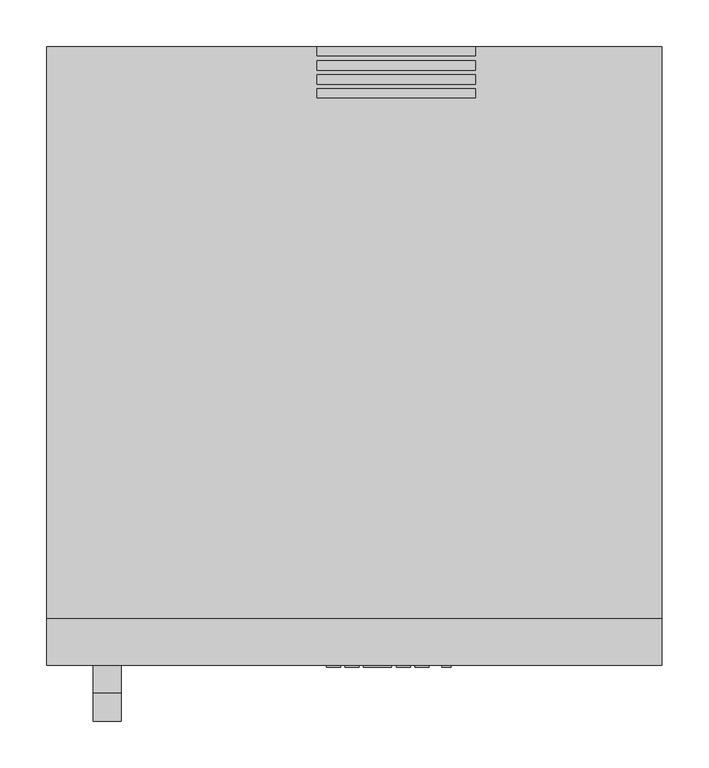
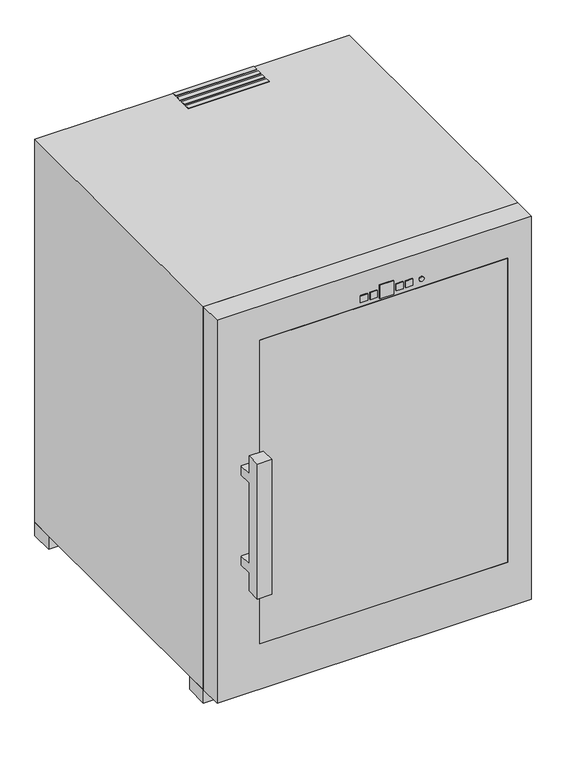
"""IFC4 building model written with IfcOpenShell, lengths in millimetres: proxy geometry, Wkb 1712_049 : WKb 1712."""

import ifcopenshell
import ifcopenshell.guid

model = None  # the IFC model being written
_history = None  # IfcOwnerHistory: only IFC2X3 demands one
_inside = {}  # id of a spatial element -> (the spatial element, [elements in it])
_under = {}  # id of a project, library or spatial element -> (it, [spatial elements below it])
_declared = {}  # id of a project -> (the project, [libraries it declares])
_typed = {}  # id of a type object -> (the type object, [elements of that type])
_made_of = {}  # id of a material, layer set ... -> (it, [elements and type objects made of it])


def new_model(schema):
    """Start an empty IFC model of exactly this schema.

    Asked for "IFC4X3", IfcOpenShell would pick the latest addendum, in which some entities
    have other attributes; the version numbers below select the first issue.
    IFC2X3 requires an IfcOwnerHistory on every rooted entity: one is made here for all.
    """
    global model, _history
    if schema == "IFC4X3":
        model = ifcopenshell.file(schema_version=(4, 3, 0, 0))
    else:
        model = ifcopenshell.file(schema=schema)
    _inside.clear()
    _under.clear()
    _declared.clear()
    _typed.clear()
    _made_of.clear()
    _history = None
    if model.schema == "IFC2X3":
        org = make("IfcOrganization", Name="unknown")
        user = make(
            "IfcPersonAndOrganization",
            ThePerson=make("IfcPerson", FamilyName="unknown"),
            TheOrganization=org,
        )
        app = make(
            "IfcApplication",
            ApplicationDeveloper=org,
            Version="unknown",
            ApplicationFullName="unknown",
            ApplicationIdentifier="unknown",
        )
        _history = make(
            "IfcOwnerHistory",
            OwningUser=user,
            OwningApplication=app,
            ChangeAction="ADDED",
            CreationDate=0,
        )
    return model


def make(cls, **values):
    """One entity of the class cls with the attributes given. An attribute that is None is left unset."""
    return model.create_entity(
        cls, **{name: value for name, value in values.items() if value is not None}
    )


def rooted(cls, **values):
    """An entity with a GlobalId (a new one), such as an element, a storey or a relation."""
    return make(cls, GlobalId=ifcopenshell.guid.new(), OwnerHistory=_history, **values)


def si_unit(unit_type, name, prefix=None):
    """IfcSIUnit, for example si_unit("LENGTHUNIT", "METRE", prefix="MILLI")."""
    return make("IfcSIUnit", UnitType=unit_type, Prefix=prefix, Name=name)


def assignment(units):
    """IfcUnitAssignment: the units of a project."""
    return None if units is None else make("IfcUnitAssignment", Units=units)


def point(xyz):
    """IfcCartesianPoint."""
    return None if xyz is None else make("IfcCartesianPoint", Coordinates=xyz)


def direction(xyz):
    """IfcDirection."""
    return None if xyz is None else make("IfcDirection", DirectionRatios=xyz)


def frame(location, z_axis=None, x_axis=None):
    """IfcAxis2Placement3D, a coordinate frame: its origin and axes. An axis left out is left unset."""
    return make(
        "IfcAxis2Placement3D",
        Location=point(location),
        Axis=direction(z_axis),
        RefDirection=direction(x_axis),
    )


def frame_2d(location, x_axis=None):
    """IfcAxis2Placement2D, a coordinate frame in the plane: its origin and x axis."""
    return make(
        "IfcAxis2Placement2D", Location=point(location), RefDirection=direction(x_axis)
    )


def origin():
    """The frame at (0, 0, 0) with its axes left unset."""
    return frame((0.0, 0.0, 0.0))


def place(relative_to, where):
    """IfcLocalPlacement: puts the frame where relative to a parent placement (None: the world)."""
    return make(
        "IfcLocalPlacement", PlacementRelTo=relative_to, RelativePlacement=where
    )


def context(
    kind, dimensions, precision=None, world=None, true_north=None, identifier=None
):
    """IfcGeometricRepresentationContext, for example the 3D "Model" context."""
    return make(
        "IfcGeometricRepresentationContext",
        ContextIdentifier=identifier,
        ContextType=kind,
        CoordinateSpaceDimension=dimensions,
        Precision=precision,
        WorldCoordinateSystem=world,
        TrueNorth=true_north,
    )


def project(units=None, contexts=None):
    """IfcProject with its units and contexts."""
    return rooted(
        "IfcProject",
        Name="project",
        RepresentationContexts=contexts,
        UnitsInContext=assignment(units),
    )


def spatial(cls, under=None, at=None, **own):
    """A site, building, storey or space (cls), placed at a placement, below another one or the project."""
    s = rooted(cls, ObjectPlacement=at, **own)
    if under is not None:
        _under.setdefault(under.id(), (under, []))[1].append(s)
    return s


def polyline(points):
    """IfcPolyline through the points."""
    return make("IfcPolyline", Points=[point(p) for p in points])


def circle_curve(where, radius):
    """IfcCircle in the frame where."""
    return make("IfcCircle", Position=where, Radius=radius)


def trimmed(basis, trim1, trim2, sense, master):
    """IfcTrimmedCurve: the piece of a basis curve between two trims."""
    return make(
        "IfcTrimmedCurve",
        BasisCurve=basis,
        Trim1=trim1,
        Trim2=trim2,
        SenseAgreement=sense,
        MasterRepresentation=master,
    )


def segment(curve, same_sense, transition):
    """IfcCompositeCurveSegment."""
    return make(
        "IfcCompositeCurveSegment",
        Transition=transition,
        SameSense=same_sense,
        ParentCurve=curve,
    )


def composite_curve(segments, self_intersect=None):
    """IfcCompositeCurve: segments joined end to end."""
    return make("IfcCompositeCurve", Segments=segments, SelfIntersect=self_intersect)


def outline(outer, holes=None, kind="AREA"):
    """IfcArbitraryClosedProfileDef: a profile drawn as a closed curve; with holes, ...WithVoids."""
    if holes is None:
        return make("IfcArbitraryClosedProfileDef", ProfileType=kind, OuterCurve=outer)
    return make(
        "IfcArbitraryProfileDefWithVoids",
        ProfileType=kind,
        OuterCurve=outer,
        InnerCurves=holes,
    )


def extrude(swept, where, along, depth):
    """IfcExtrudedAreaSolid: the profile swept, set in the frame where, extruded along a direction by depth."""
    return make(
        "IfcExtrudedAreaSolid",
        SweptArea=swept,
        Position=where,
        ExtrudedDirection=direction(along),
        Depth=depth,
    )


def faces_of(points, faces, orient=None, outer=None):
    """IfcFace entities. A face is a list of loops; a loop is a list of indices into points, from 0.

    orient and outer hold one flag for each loop. By default every Orientation is true, the
    first loop of a face is its IfcFaceOuterBound and the others are IfcFaceBound.
    """
    made = []
    for i, loops in enumerate(faces):
        bounds = []
        for j, loop in enumerate(loops):
            is_outer = j == 0 if outer is None else outer[i][j]
            bounds.append(
                make(
                    "IfcFaceOuterBound" if is_outer else "IfcFaceBound",
                    Bound=make("IfcPolyLoop", Polygon=[points[k] for k in loop]),
                    Orientation=True if orient is None else orient[i][j],
                )
            )
        made.append(make("IfcFace", Bounds=bounds))
    return made


def faceted_brep(points, faces, orient=None, outer=None, voids=None):
    """IfcFacetedBrep: a solid bounded by flat faces; with voids (closed shells), ...WithVoids."""
    shared = [point(p) for p in points]
    hull = make("IfcClosedShell", CfsFaces=faces_of(shared, faces, orient, outer))
    if voids is None:
        return make("IfcFacetedBrep", Outer=hull)
    return make(
        "IfcFacetedBrepWithVoids",
        Outer=hull,
        Voids=[
            make(cls, CfsFaces=faces_of(shared, fs, o, b)) for cls, fs, o, b in voids
        ],
    )


def shape(context_of_items, identifier, shape_type, items):
    """IfcShapeRepresentation: the items that make up one representation, for example the "Body"."""
    return make(
        "IfcShapeRepresentation",
        ContextOfItems=context_of_items,
        RepresentationIdentifier=identifier,
        RepresentationType=shape_type,
        Items=items,
    )


def source(mapping_origin, context_of_items, identifier, shape_type, items):
    """IfcRepresentationMap: a shape defined once, which mapped items show again and again."""
    return make(
        "IfcRepresentationMap",
        MappingOrigin=mapping_origin,
        MappedRepresentation=shape(context_of_items, identifier, shape_type, items),
    )


def transform(
    local_origin,
    x_axis=None,
    y_axis=None,
    z_axis=None,
    scale=None,
    scale2=None,
    scale3=None,
    uniform=True,
):
    """IfcCartesianTransformationOperator3D, or its non-uniform kind. x_axis, y_axis, z_axis: its Axis1, 2, 3."""
    if uniform:
        return make(
            "IfcCartesianTransformationOperator3D",
            Axis1=direction(x_axis),
            Axis2=direction(y_axis),
            LocalOrigin=point(local_origin),
            Scale=scale,
            Axis3=direction(z_axis),
        )
    return make(
        "IfcCartesianTransformationOperator3DnonUniform",
        Axis1=direction(x_axis),
        Axis2=direction(y_axis),
        LocalOrigin=point(local_origin),
        Scale=scale,
        Axis3=direction(z_axis),
        Scale2=scale2,
        Scale3=scale3,
    )


def mapped(mapping_source, mapping_target):
    """IfcMappedItem: shows the shape of a source again, moved by a transform."""
    return make(
        "IfcMappedItem", MappingSource=mapping_source, MappingTarget=mapping_target
    )


def made_of(thing, what):
    """Note that an element or type object is made of a material, layer set ...; save() writes the relation."""
    if what is not None:
        _made_of.setdefault(what.id(), (what, []))[1].append(thing)
    return thing


def element(
    cls,
    number,
    at=None,
    inside=None,
    cuts=None,
    type_object=None,
    material=None,
    context=None,
    identifier="Body",
    shape_type=None,
    held_by="IfcProductDefinitionShape",
    body=None,
    shapes=None,
    **own,
):
    """One element of the class cls, such as IfcWall. Its Tag is "e" and its number.

    at: its placement. inside: the storey or other place that contains it. cuts: it is an
    opening in that element (IfcRelVoidsElement). A single representation is given by context,
    identifier, shape_type and body (its items); several are given by shapes. held_by: the class
    of the entity that holds the representations. save() writes the other relations.
    """
    e = rooted(cls, Tag="e%d" % number, ObjectPlacement=at, **own)
    if body is not None:
        shapes = [shape(context, identifier, shape_type, body)]
    if shapes is not None:
        e.Representation = make(held_by, Representations=shapes)
    if inside is not None:
        _inside.setdefault(inside.id(), (inside, []))[1].append(e)
    if cuts is not None:
        rooted(
            "IfcRelVoidsElement", RelatingBuildingElement=cuts, RelatedOpeningElement=e
        )
    if type_object is not None:
        _typed.setdefault(type_object.id(), (type_object, []))[1].append(e)
    return made_of(e, material)


def aggregate(whole, parts):
    """IfcRelAggregates: a whole, such as a stair, and the parts it consists of."""
    return rooted("IfcRelAggregates", RelatingObject=whole, RelatedObjects=parts)


def save(model, path):
    """Write the relations noted so far, then the file.

    IfcRelAggregates (storeys below a building ...), IfcRelContainedInSpatialStructure (elements
    in a storey), IfcRelDefinesByType, IfcRelAssociatesMaterial and IfcRelDeclares: one each for
    every whole, place, type object, material and project.
    """
    for whole, parts in _under.values():
        aggregate(whole, parts)
    for where, things in _inside.values():
        rooted(
            "IfcRelContainedInSpatialStructure",
            RelatedElements=things,
            RelatingStructure=where,
        )
    for kind, things in _typed.values():
        rooted("IfcRelDefinesByType", RelatedObjects=things, RelatingType=kind)
    for what, things in _made_of.values():
        rooted("IfcRelAssociatesMaterial", RelatedObjects=things, RelatingMaterial=what)
    for by, libraries in _declared.values():
        rooted("IfcRelDeclares", RelatingContext=by, RelatedDefinitions=libraries)
    model.write(path)


def specialty_equipment_dc7cb6ab(model_context):
    return source(origin(), model_context, "Body", "SolidModel", [
        extrude(outline(polyline([(-390.7610771, -79.8345306), (-390.7610771, -132.822942), (-390.7610771, -642.8345306), (-911.4416063, -642.8345306), (-911.4416063, -79.8345306), (-390.7610771, -79.8345306)]), holes=[polyline([(-821.4496518, -109.8345306), (-881.4416063, -109.8345306), (-881.4416063, -612.8345306), (-846.4496518, -612.8345306), (-821.4496518, -612.8345306), (-821.4496518, -109.8345306)]), polyline([(-805.7610771, -612.8345306), (-741.4496518, -612.8345306), (-741.4496518, -109.8345306), (-805.7610771, -109.8345306), (-805.7610771, -612.8345306)]), polyline([(-725.7610771, -612.8345306), (-661.4496518, -612.8345306), (-661.4496518, -109.8345306), (-725.7610771, -109.8345306), (-725.7610771, -612.8345306)]), polyline([(-645.7610771, -612.8345306), (-576.4496518, -612.8345306), (-576.4496518, -109.8345306), (-645.7610771, -109.8345306), (-645.7610771, -612.8345306)]), polyline([(-420.7610771, -109.8345306), (-478.2610771, -109.8345306), (-478.2610771, -612.8345306), (-455.9718318, -612.8345306), (-420.7610771, -612.8345306), (-420.7610771, -109.8345306)]), polyline([(-560.7610771, -612.8345306), (-493.9496518, -612.8345306), (-493.9496518, -109.8345306), (-560.7610771, -109.8345306), (-560.7610771, -612.8345306)])]), frame((0.0, 0.0, 856.8132517), z_axis=(0.0, 0.0, 1.0), x_axis=(1.0, 0.0, 0.0)), (0.0, 0.0, 1.0), 25.0),
        extrude(outline(polyline([(-390.7610771, -79.8345306), (-390.7610771, -132.822942), (-390.7610771, -642.8345306), (-911.4416063, -642.8345306), (-911.4416063, -79.8345306), (-390.7610771, -79.8345306)]), holes=[polyline([(-821.4496518, -109.8345306), (-881.4416063, -109.8345306), (-881.4416063, -612.8345306), (-846.4496518, -612.8345306), (-821.4496518, -612.8345306), (-821.4496518, -109.8345306)]), polyline([(-805.7610771, -612.8345306), (-741.4496518, -612.8345306), (-741.4496518, -109.8345306), (-805.7610771, -109.8345306), (-805.7610771, -612.8345306)]), polyline([(-725.7610771, -612.8345306), (-661.4496518, -612.8345306), (-661.4496518, -109.8345306), (-725.7610771, -109.8345306), (-725.7610771, -612.8345306)]), polyline([(-645.7610771, -612.8345306), (-576.4496518, -612.8345306), (-576.4496518, -109.8345306), (-645.7610771, -109.8345306), (-645.7610771, -612.8345306)]), polyline([(-420.7610771, -109.8345306), (-478.2610771, -109.8345306), (-478.2610771, -612.8345306), (-455.9718318, -612.8345306), (-420.7610771, -612.8345306), (-420.7610771, -109.8345306)]), polyline([(-560.7610771, -612.8345306), (-493.9496518, -612.8345306), (-493.9496518, -109.8345306), (-560.7610771, -109.8345306), (-560.7610771, -612.8345306)])]), frame((0.0, 0.0, 656.8132517), z_axis=(0.0, 0.0, 1.0), x_axis=(1.0, 0.0, 0.0)), (0.0, 0.0, 1.0), 25.0),
        extrude(outline(polyline([(-390.7610771, -79.8345306), (-390.7610771, -132.822942), (-390.7610771, -642.8345306), (-911.4416063, -642.8345306), (-911.4416063, -79.8345306), (-390.7610771, -79.8345306)]), holes=[polyline([(-821.4496518, -109.8345306), (-881.4416063, -109.8345306), (-881.4416063, -612.8345306), (-846.4496518, -612.8345306), (-821.4496518, -612.8345306), (-821.4496518, -109.8345306)]), polyline([(-805.7610771, -612.8345306), (-741.4496518, -612.8345306), (-741.4496518, -109.8345306), (-805.7610771, -109.8345306), (-805.7610771, -612.8345306)]), polyline([(-725.7610771, -612.8345306), (-661.4496518, -612.8345306), (-661.4496518, -109.8345306), (-725.7610771, -109.8345306), (-725.7610771, -612.8345306)]), polyline([(-645.7610771, -612.8345306), (-576.4496518, -612.8345306), (-576.4496518, -109.8345306), (-645.7610771, -109.8345306), (-645.7610771, -612.8345306)]), polyline([(-420.7610771, -109.8345306), (-478.2610771, -109.8345306), (-478.2610771, -612.8345306), (-455.9718318, -612.8345306), (-420.7610771, -612.8345306), (-420.7610771, -109.8345306)]), polyline([(-560.7610771, -612.8345306), (-493.9496518, -612.8345306), (-493.9496518, -109.8345306), (-560.7610771, -109.8345306), (-560.7610771, -612.8345306)])]), frame((0.0, 0.0, 466.8132517), z_axis=(0.0, 0.0, 1.0), x_axis=(1.0, 0.0, 0.0)), (0.0, 0.0, 1.0), 5.0),
        extrude(outline(polyline([(-540.0, -29.8345306), (-540.0, -39.8345306), (-710.0, -39.8345306), (-710.0, -29.8345306), (-540.0, -29.8345306)])), frame((0.0, 0.0, 1216.8132517), z_axis=(0.0, 0.0, 1.0), x_axis=(1.0, 0.0, 0.0)), (0.0, 0.0, 1.0), 1.0318985),
        extrude(outline(polyline([(-540.0, -45.1511593), (-540.0, -55.1511593), (-710.0, -55.1511593), (-710.0, -45.1511593), (-540.0, -45.1511593)])), frame((0.0, 0.0, 1216.8132517), z_axis=(0.0, 0.0, 1.0), x_axis=(1.0, 0.0, 0.0)), (0.0, 0.0, 1.0), 1.0318985),
        extrude(outline(polyline([(-540.0, -60.1400497), (-540.0, -70.1400497), (-710.0, -70.1400497), (-710.0, -60.1400497), (-540.0, -60.1400497)])), frame((0.0, 0.0, 1216.8132517), z_axis=(0.0, 0.0, 1.0), x_axis=(1.0, 0.0, 0.0)), (0.0, 0.0, 1.0), 1.0318985),
        extrude(outline(polyline([(-540.0, -74.8345306), (-540.0, -84.8345306), (-710.0, -84.8345306), (-710.0, -74.8345306), (-540.0, -74.8345306)])), frame((0.0, 0.0, 1216.8132517), z_axis=(0.0, 0.0, 1.0), x_axis=(1.0, 0.0, 0.0)), (0.0, 0.0, 1.0), 1.0318985),
        extrude(outline(polyline([(-630.0, -694.7817027), (-660.0, -694.7817027), (-660.0, -692.8345306), (-630.0, -692.8345306), (-630.0, -694.7817027)])), frame((0.0, 0.0, 1146.8132517), z_axis=(0.0, 0.0, 1.0), x_axis=(1.0, 0.0, 0.0)), (0.0, 0.0, 1.0), 30.0),
        extrude(outline(polyline([(-665.0, -694.7817027), (-680.0, -694.7817027), (-680.0, -692.8345306), (-665.0, -692.8345306), (-665.0, -694.7817027)])), frame((0.0, 0.0, 1152.245761), z_axis=(0.0, 0.0, 1.0), x_axis=(1.0, 0.0, 0.0)), (0.0, 0.0, 1.0), 15.0),
        extrude(outline(polyline([(-685.0, -694.7817027), (-700.0, -694.7817027), (-700.0, -692.8345306), (-685.0, -692.8345306), (-685.0, -694.7817027)])), frame((0.0, 0.0, 1152.245761), z_axis=(0.0, 0.0, 1.0), x_axis=(1.0, 0.0, 0.0)), (0.0, 0.0, 1.0), 15.0),
        extrude(outline(polyline([(-610.0, -694.7817027), (-625.0, -694.7817027), (-625.0, -692.8345306), (-610.0, -692.8345306), (-610.0, -694.7817027)])), frame((0.0, 0.0, 1152.245761), z_axis=(0.0, 0.0, 1.0), x_axis=(1.0, 0.0, 0.0)), (0.0, 0.0, 1.0), 15.0),
        extrude(outline(polyline([(-590.0, -694.7817027), (-605.0, -694.7817027), (-605.0, -692.8345306), (-590.0, -692.8345306), (-590.0, -694.7817027)])), frame((0.0, 0.0, 1152.245761), z_axis=(0.0, 0.0, 1.0), x_axis=(1.0, 0.0, 0.0)), (0.0, 0.0, 1.0), 15.0),
        extrude(outline(composite_curve([segment(trimmed(circle_curve(frame_2d((1159.745761, -571.25)), 5.0), [point((1159.745761, -576.25))], [point((1159.745761, -566.25))], False, "CARTESIAN"), True, "CONTINUOUS"), segment(trimmed(circle_curve(frame_2d((1159.745761, -571.25)), 5.0), [point((1159.745761, -566.25))], [point((1159.745761, -576.25))], False, "CARTESIAN"), True, "CONTINUOUS")], self_intersect=False)), frame((0.0, -694.7817027, 0.0), z_axis=(0.0, 1.0, 0.0), x_axis=(0.0, 0.0, 1.0)), (0.0, 0.0, 1.0), 1.947172),
        extrude(outline(polyline([(-390.0, -692.8345306), (-910.0, -692.8345306), (-910.0, -642.8345306), (-390.0, -642.8345306), (-390.0, -692.8345306)])), frame((0.0, 0.0, 466.8132517), z_axis=(0.0, 0.0, 1.0), x_axis=(1.0, 0.0, 0.0)), (0.0, 0.0, 1.0), 675.0),
        extrude(outline(polyline([(1216.8132517, -340.0), (1216.8132517, -1000.0), (366.8132517, -1000.0), (366.8132517, -340.0), (1216.8132517, -340.0)]), holes=[polyline([(1141.8132517, -910.0), (1141.8132517, -390.0), (466.8132517, -390.0), (466.8132517, -910.0), (1141.8132517, -910.0)])]), frame((0.0, -692.8345306, 0.0), z_axis=(0.0, 1.0, 0.0), x_axis=(0.0, 0.0, 1.0)), (0.0, 0.0, 1.0), 50.0),
        faceted_brep([(-340.0, -642.8345306, 1216.8132517), (-1000.0, -642.8345306, 1216.8132517), (-1000.0, -642.8345306, 366.8132517), (-340.0, -642.8345306, 366.8132517), (-910.0, -642.8345306, 1141.8132517), (-390.0, -642.8345306, 1141.8132517), (-390.0, -642.8345306, 466.8132517), (-910.0, -642.8345306, 466.8132517), (-340.0, -29.8345306, 1216.8132517), (-340.0, -29.8345306, 366.8132517), (-1000.0, -29.8345306, 366.8132517), (-1000.0, -29.8345306, 1216.8132517), (-390.0, -79.8345306, 1141.8132517), (-910.0, -79.8345306, 1141.8132517), (-910.0, -79.8345306, 466.8132517), (-390.0, -79.8345306, 466.8132517)], [[[0, 1, 2, 3], [4, 5, 6, 7]], [[8, 9, 10, 11]], [[1, 0, 8, 11]], [[2, 1, 11, 10]], [[3, 2, 10, 9]], [[0, 3, 9, 8]], [[12, 13, 14, 15]], [[13, 12, 5, 4]], [[14, 13, 4, 7]], [[15, 14, 7, 6]], [[12, 15, 6, 5]]]),
        extrude(outline(polyline([(-340.0, -592.8345306), (-340.0, -642.8345306), (-390.0, -642.8345306), (-390.0, -592.8345306), (-340.0, -592.8345306)])), frame((0.0, 0.0, 336.8132517), z_axis=(0.0, 0.0, 1.0), x_axis=(1.0, 0.0, 0.0)), (0.0, 0.0, 1.0), 30.0),
        extrude(outline(polyline([(-340.0, -29.8345306), (-340.0, -79.8345306), (-390.0, -79.8345306), (-390.0, -29.8345306), (-340.0, -29.8345306)])), frame((0.0, 0.0, 336.8132517), z_axis=(0.0, 0.0, 1.0), x_axis=(1.0, 0.0, 0.0)), (0.0, 0.0, 1.0), 30.0),
        extrude(outline(polyline([(-950.0, -29.8345306), (-950.0, -79.8345306), (-1000.0, -79.8345306), (-1000.0, -29.8345306), (-950.0, -29.8345306)])), frame((0.0, 0.0, 336.8132517), z_axis=(0.0, 0.0, 1.0), x_axis=(1.0, 0.0, 0.0)), (0.0, 0.0, 1.0), 30.0),
        extrude(outline(polyline([(-950.0, -592.8345306), (-950.0, -642.8345306), (-1000.0, -642.8345306), (-1000.0, -592.8345306), (-950.0, -592.8345306)])), frame((0.0, 0.0, 336.8132517), z_axis=(0.0, 0.0, 1.0), x_axis=(1.0, 0.0, 0.0)), (0.0, 0.0, 1.0), 30.0),
        extrude(outline(polyline([(-722.8345306, 876.8132517), (-692.8345306, 876.8132517), (-692.8345306, 856.8132517), (-722.8345306, 856.8132517), (-722.8345306, 676.8132517), (-692.8345306, 676.8132517), (-692.8345306, 656.8132517), (-722.8345306, 656.8132517), (-722.8345306, 616.8132517), (-752.8345306, 616.8132517), (-752.8345306, 916.8132517), (-722.8345306, 916.8132517), (-722.8345306, 876.8132517)])), frame((-950.0, 0.0, 0.0), z_axis=(1.0, 0.0, 0.0), x_axis=(0.0, 1.0, 0.0)), (0.0, 0.0, 1.0), 30.0),
    ])


if __name__ == "__main__":
    model = new_model("IFC4")
    model_context = context("Model", 3, world=origin())
    ifc_project = project(units=[si_unit("LENGTHUNIT", "METRE", prefix="MILLI")], contexts=[model_context])
    site = spatial("IfcSite", under=ifc_project)
    building = spatial("IfcBuilding", under=site)
    placement = place(None, origin())
    specialty_equipment_shape = specialty_equipment_dc7cb6ab(model_context)
    element("IfcBuildingElementProxy", 1, Name="Wkb 1712_049 : WKb 1712", ObjectType="Wkb 1712_049 : WKb 1712", at=placement, inside=building, context=model_context, shape_type="MappedRepresentation", body=[
        mapped(specialty_equipment_shape, transform((0.0, 0.0, 0.0), x_axis=(1.0, 0.0, 0.0), y_axis=(0.0, 1.0, 0.0), z_axis=(0.0, 0.0, 1.0))),
    ])
    save(model, "model.ifc")
